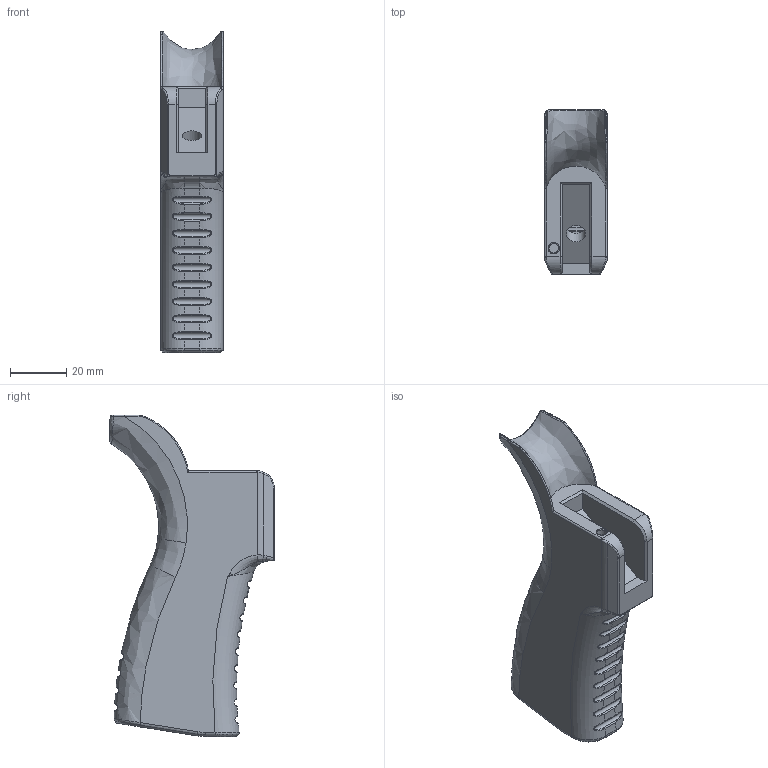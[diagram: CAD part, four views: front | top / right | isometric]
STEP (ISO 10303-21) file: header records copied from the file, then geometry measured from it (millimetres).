
FILE_DESCRIPTION(/* description */ (''),/* implementation_level */ '2;1');
FILE_NAME(/* name */ 'C:/Users/FFFTechnology/3D Objects/The Bad Stuff/To Be Released/AWCY Laffs Grip Pack/STP/Grip 1.step',/* time_stamp */ '2021-10-28T08:42:24-04:00',/* author */ (''),/* organization */ (''),/* preprocessor_version */ 'ST-DEVELOPER v18.1',/* originating_system */ 'Autodesk Translation Framework v10.10.0.1391',/* authorisation */ '');
FILE_SCHEMA (('AUTOMOTIVE_DESIGN { 1 0 10303 214 3 1 1 }'));
Products named in the file (1): Grip 1
Bounding box: 22.33 x 58.4 x 113.9 mm (x, y, z)
Volume: 47326 mm3; surface area: 21615 mm2
Topology: 1 solids, 1 shells, 770 faces, 2030 edges, 1206 vertices
Faces by surface type: bspline 491, cylinder 142, plane 69, torus 57, cone 9, sphere 2
Full cylindrical faces by diameter (mm): 3.4 x1, 6.8 x1, 11.616 x1, 13.416 x1
Entity records: 40041 total; most frequent: CARTESIAN_POINT 24277, ORIENTED_EDGE 3920, DIRECTION 2220, EDGE_CURVE 1960, VERTEX_POINT 1206, B_SPLINE_CURVE_WITH_KNOTS 833, AXIS2_PLACEMENT_3D 814, EDGE_LOOP 786
